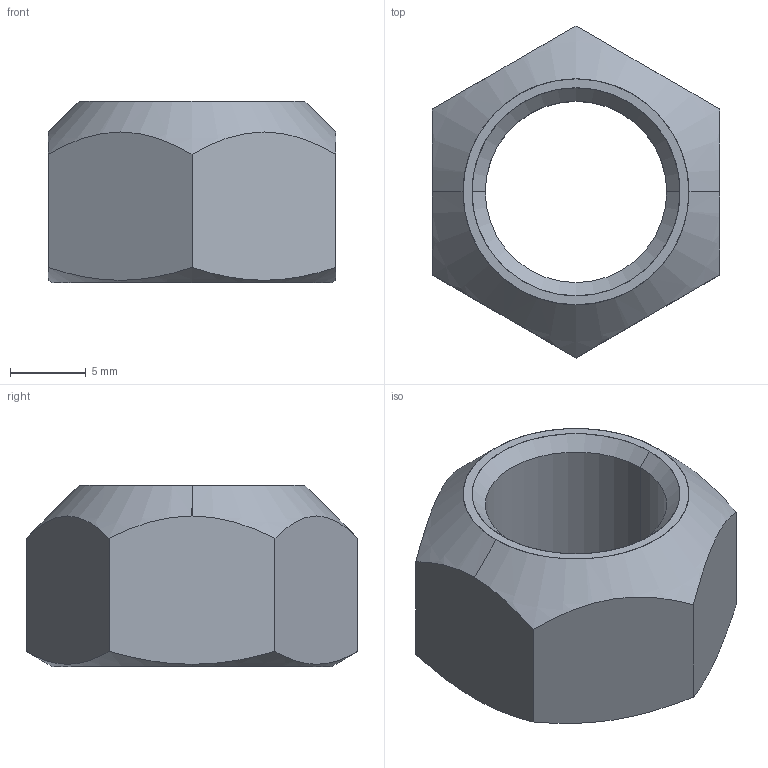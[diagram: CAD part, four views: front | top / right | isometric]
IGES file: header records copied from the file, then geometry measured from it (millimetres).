
Start section: SolidWorks IGES file using analytic representation for surfaces
Global section: file name: C:\Users\liam_\OneDrive\Documents\WORK\Work for WixRoyd\Job Files\J-00021 - Matt Davis CAD Checking\04. CAD Drawings\automotion20190729\P0308.ZP_v2\P0308.ZP_v2_20190913_IGES\P0308.120-ZP.igs; native system: SolidWorks 2017; preprocessor: SolidWorks 2017; author: liam_; date: 190913.214129; units: millimetre
Bounding box: 19 x 21.94 x 12 mm (x, y, z)
Surface area: 1471.9 mm2 (no closed solid volume)
Topology: 0 solids, 0 shells, 18 faces, 368 edges, 368 vertices
Faces by surface type: revolution 10, bspline 8
